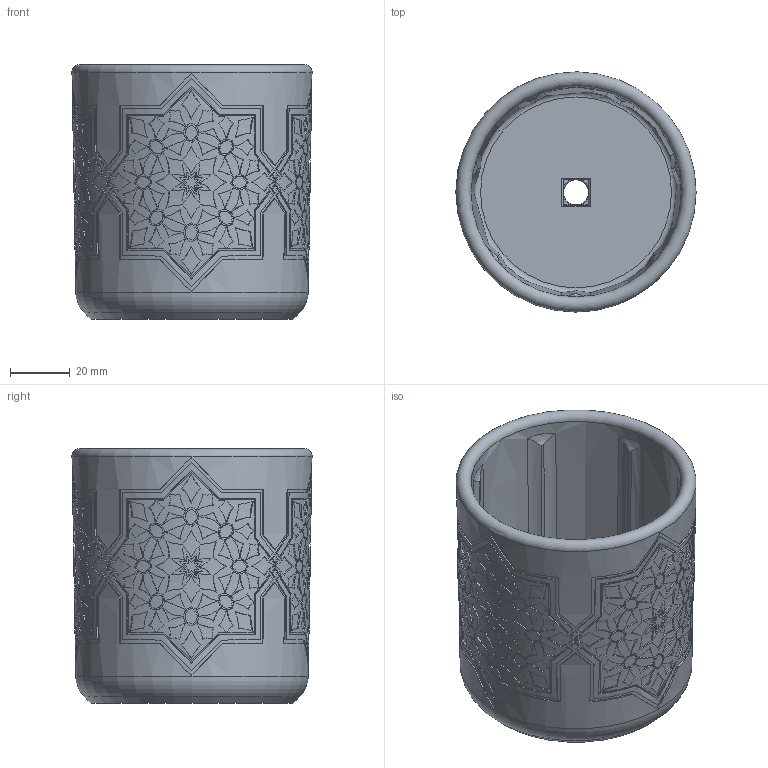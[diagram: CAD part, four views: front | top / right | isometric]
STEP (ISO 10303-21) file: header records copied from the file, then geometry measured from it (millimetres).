
FILE_DESCRIPTION(/* description */ (''),/* implementation_level */ '2;1');
FILE_NAME(/* name */ 'Paint Shaker.step',/* time_stamp */ '2025-11-21T23:09:40-08:00',/* author */ (''),/* organization */ (''),/* preprocessor_version */ 'ST-DEVELOPER v20.1',/* originating_system */ 'Autodesk Translation Framework v14.21.0.0',/* authorisation */ '');
FILE_SCHEMA (('AUTOMOTIVE_DESIGN { 1 0 10303 214 3 1 1 }'));
Products named in the file (1): 2025-11-21-20-51-34-346
Bounding box: 80.2 x 80.2 x 85 mm (x, y, z)
Volume: 128995.9 mm3; surface area: 49625.2 mm2
Topology: 1 solids, 1 shells, 2351 faces, 6439 edges, 4291 vertices
Faces by surface type: bspline 2108, cone 216, plane 23, torus 3, cylinder 1
Full cylindrical faces by diameter (mm): 8.343 x1
Entity records: 103530 total; most frequent: CARTESIAN_POINT 58887, ORIENTED_EDGE 12878, EDGE_CURVE 6439, B_SPLINE_CURVE_WITH_KNOTS 4440, VERTEX_POINT 4291, EDGE_LOOP 2554, DIRECTION 2518, FACE_OUTER_BOUND 2351
